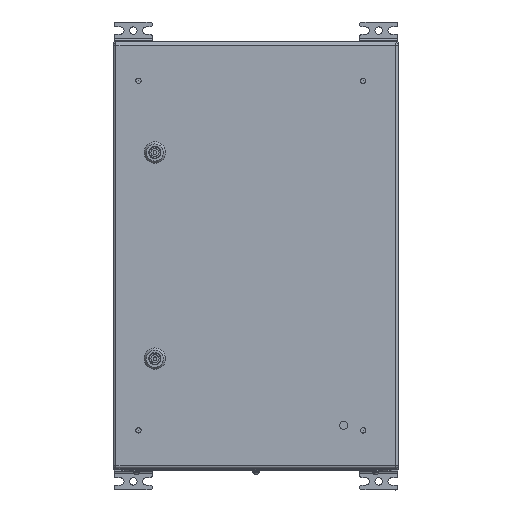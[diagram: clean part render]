
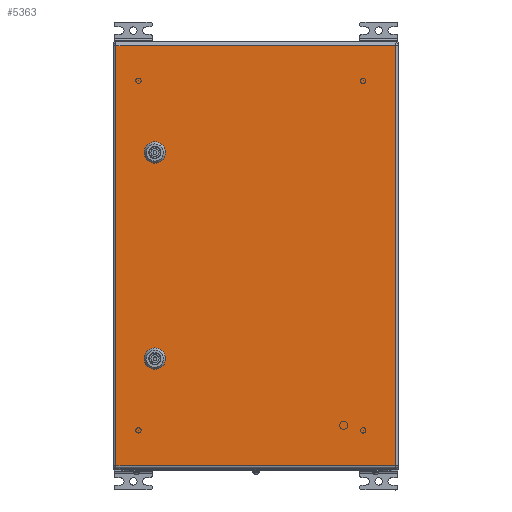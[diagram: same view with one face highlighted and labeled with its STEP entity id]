
A CAD part, top view. The second image highlights one B-rep face of the part: STEP entity #5363.
In plain terms, the highlighted planar face has unit normal (0, 0, 1).
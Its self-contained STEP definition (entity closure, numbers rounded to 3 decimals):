
#5363=ADVANCED_FACE('',(#13160,#13162,#13164),#13166,.T.);
#13160=FACE_BOUND('',#13161,.T.);
#13161=EDGE_LOOP('',(#34973,#34974,#34975,#34976));
#13162=FACE_BOUND('',#13163,.T.);
#13163=EDGE_LOOP('',(#34977,#34978,#34979,#34980,#34981,#34982,#34983,#34984));
#13164=FACE_BOUND('',#13165,.T.);
#13165=EDGE_LOOP('',(#34985,#34986,#34987,#34988,#34989,#34990,#34991,#34992));
#13166=PLANE('',#13167);
#13167=AXIS2_PLACEMENT_3D('',#13168,#13169,#13170);
#13168=CARTESIAN_POINT('',(0.,0.,1.5));
#13169=DIRECTION('',(0.,0.,1.));
#13170=DIRECTION('',(1.,0.,0.));
#34973=ORIENTED_EDGE('',*,*,#38875,.T.);
#34974=ORIENTED_EDGE('',*,*,#38876,.T.);
#34975=ORIENTED_EDGE('',*,*,#38808,.T.);
#34976=ORIENTED_EDGE('',*,*,#38877,.T.);
#34977=ORIENTED_EDGE('',*,*,#38878,.T.);
#34978=ORIENTED_EDGE('',*,*,#38879,.T.);
#34979=ORIENTED_EDGE('',*,*,#38880,.T.);
#34980=ORIENTED_EDGE('',*,*,#38881,.T.);
#34981=ORIENTED_EDGE('',*,*,#38882,.T.);
#34982=ORIENTED_EDGE('',*,*,#38883,.T.);
#34983=ORIENTED_EDGE('',*,*,#38884,.T.);
#34984=ORIENTED_EDGE('',*,*,#38885,.T.);
#34985=ORIENTED_EDGE('',*,*,#38886,.T.);
#34986=ORIENTED_EDGE('',*,*,#38887,.T.);
#34987=ORIENTED_EDGE('',*,*,#38888,.T.);
#34988=ORIENTED_EDGE('',*,*,#38889,.T.);
#34989=ORIENTED_EDGE('',*,*,#38890,.T.);
#34990=ORIENTED_EDGE('',*,*,#38891,.T.);
#34991=ORIENTED_EDGE('',*,*,#38892,.T.);
#34992=ORIENTED_EDGE('',*,*,#38893,.T.);
#38808=EDGE_CURVE('',#42057,#42055,#42058,.T.);
#38875=EDGE_CURVE('',#42174,#42175,#42176,.T.);
#38876=EDGE_CURVE('',#42175,#42057,#42177,.T.);
#38877=EDGE_CURVE('',#42055,#42174,#42178,.T.);
#38878=EDGE_CURVE('',#42179,#42180,#42181,.T.);
#38879=EDGE_CURVE('',#42180,#42182,#42183,.F.);
#38880=EDGE_CURVE('',#42182,#42184,#42185,.T.);
#38881=EDGE_CURVE('',#42184,#42186,#42187,.F.);
#38882=EDGE_CURVE('',#42186,#42188,#42189,.T.);
#38883=EDGE_CURVE('',#42188,#42190,#42191,.F.);
#38884=EDGE_CURVE('',#42190,#42192,#42193,.T.);
#38885=EDGE_CURVE('',#42192,#42179,#42194,.F.);
#38886=EDGE_CURVE('',#42195,#42196,#42197,.T.);
#38887=EDGE_CURVE('',#42196,#42198,#42199,.F.);
#38888=EDGE_CURVE('',#42198,#42200,#42201,.T.);
#38889=EDGE_CURVE('',#42200,#42202,#42203,.F.);
#38890=EDGE_CURVE('',#42202,#42204,#42205,.T.);
#38891=EDGE_CURVE('',#42204,#42206,#42207,.F.);
#38892=EDGE_CURVE('',#42206,#42208,#42209,.T.);
#38893=EDGE_CURVE('',#42208,#42195,#42210,.F.);
#42055=VERTEX_POINT('',#50413);
#42057=VERTEX_POINT('',#50418);
#42058=LINE('',#50419,#50420);
#42174=VERTEX_POINT('',#50692);
#42175=VERTEX_POINT('',#50693);
#42176=LINE('',#50694,#50695);
#42177=LINE('',#50697,#50698);
#42178=LINE('',#50700,#50701);
#42179=VERTEX_POINT('',#50703);
#42180=VERTEX_POINT('',#50704);
#42181=CIRCLE('',#50705,11.25);
#42182=VERTEX_POINT('',#50709);
#42183=LINE('',#50710,#50711);
#42184=VERTEX_POINT('',#50713);
#42185=CIRCLE('',#50714,11.25);
#42186=VERTEX_POINT('',#50718);
#42187=LINE('',#50719,#50720);
#42188=VERTEX_POINT('',#50722);
#42189=CIRCLE('',#50723,11.25);
#42190=VERTEX_POINT('',#50727);
#42191=LINE('',#50728,#50729);
#42192=VERTEX_POINT('',#50731);
#42193=CIRCLE('',#50732,11.25);
#42194=LINE('',#50736,#50737);
#42195=VERTEX_POINT('',#50739);
#42196=VERTEX_POINT('',#50740);
#42197=CIRCLE('',#50741,11.25);
#42198=VERTEX_POINT('',#50745);
#42199=LINE('',#50746,#50747);
#42200=VERTEX_POINT('',#50749);
#42201=CIRCLE('',#50750,11.25);
#42202=VERTEX_POINT('',#50754);
#42203=LINE('',#50755,#50756);
#42204=VERTEX_POINT('',#50758);
#42205=CIRCLE('',#50759,11.25);
#42206=VERTEX_POINT('',#50763);
#42207=LINE('',#50764,#50765);
#42208=VERTEX_POINT('',#50767);
#42209=CIRCLE('',#50768,11.25);
#42210=LINE('',#50772,#50773);
#50413=CARTESIAN_POINT('',(0.,0.,1.5));
#50418=CARTESIAN_POINT('',(0.,-392.,1.5));
#50419=CARTESIAN_POINT('',(0.,-392.,1.5));
#50420=VECTOR('',#50421,1.);
#50421=DIRECTION('',(0.,1.,0.));
#50692=CARTESIAN_POINT('',(-589.,0.,1.5));
#50693=CARTESIAN_POINT('',(-589.,-392.,1.5));
#50694=CARTESIAN_POINT('',(-589.,0.,1.5));
#50695=VECTOR('',#50696,1.);
#50696=DIRECTION('',(0.,-1.,0.));
#50697=CARTESIAN_POINT('',(-589.,-392.,1.5));
#50698=VECTOR('',#50699,1.);
#50699=DIRECTION('',(1.,0.,0.));
#50700=CARTESIAN_POINT('',(0.,0.,1.5));
#50701=VECTOR('',#50702,1.);
#50702=DIRECTION('',(-1.,0.,0.));
#50703=CARTESIAN_POINT('',(-449.1,-49.545,1.5));
#50704=CARTESIAN_POINT('',(-443.955,-44.4,1.5));
#50705=AXIS2_PLACEMENT_3D('',#50706,#50707,#50708);
#50706=CARTESIAN_POINT('',(-439.,-54.5,1.5));
#50707=DIRECTION('',(0.,0.,-1.));
#50708=DIRECTION('',(-0.898,0.44,0.));
#50709=CARTESIAN_POINT('',(-434.045,-44.4,1.5));
#50710=CARTESIAN_POINT('',(-434.045,-44.4,1.5));
#50711=VECTOR('',#50712,1.);
#50712=DIRECTION('',(-1.,0.,0.));
#50713=CARTESIAN_POINT('',(-428.9,-49.545,1.5));
#50714=AXIS2_PLACEMENT_3D('',#50715,#50716,#50717);
#50715=CARTESIAN_POINT('',(-439.,-54.5,1.5));
#50716=DIRECTION('',(0.,0.,-1.));
#50717=DIRECTION('',(0.44,0.898,0.));
#50718=CARTESIAN_POINT('',(-428.9,-59.455,1.5));
#50719=CARTESIAN_POINT('',(-428.9,-59.455,1.5));
#50720=VECTOR('',#50721,1.);
#50721=DIRECTION('',(0.,1.,0.));
#50722=CARTESIAN_POINT('',(-434.045,-64.6,1.5));
#50723=AXIS2_PLACEMENT_3D('',#50724,#50725,#50726);
#50724=CARTESIAN_POINT('',(-439.,-54.5,1.5));
#50725=DIRECTION('',(0.,0.,-1.));
#50726=DIRECTION('',(0.898,-0.44,0.));
#50727=CARTESIAN_POINT('',(-443.955,-64.6,1.5));
#50728=CARTESIAN_POINT('',(-443.955,-64.6,1.5));
#50729=VECTOR('',#50730,1.);
#50730=DIRECTION('',(1.,0.,0.));
#50731=CARTESIAN_POINT('',(-449.1,-59.455,1.5));
#50732=AXIS2_PLACEMENT_3D('',#50733,#50734,#50735);
#50733=CARTESIAN_POINT('',(-439.,-54.5,1.5));
#50734=DIRECTION('',(0.,0.,-1.));
#50735=DIRECTION('',(-0.44,-0.898,0.));
#50736=CARTESIAN_POINT('',(-449.1,-49.545,1.5));
#50737=VECTOR('',#50738,1.);
#50738=DIRECTION('',(0.,-1.,0.));
#50739=CARTESIAN_POINT('',(-160.1,-49.545,1.5));
#50740=CARTESIAN_POINT('',(-154.955,-44.4,1.5));
#50741=AXIS2_PLACEMENT_3D('',#50742,#50743,#50744);
#50742=CARTESIAN_POINT('',(-150.,-54.5,1.5));
#50743=DIRECTION('',(0.,0.,-1.));
#50744=DIRECTION('',(-0.898,0.44,0.));
#50745=CARTESIAN_POINT('',(-145.045,-44.4,1.5));
#50746=CARTESIAN_POINT('',(-145.045,-44.4,1.5));
#50747=VECTOR('',#50748,1.);
#50748=DIRECTION('',(-1.,0.,0.));
#50749=CARTESIAN_POINT('',(-139.9,-49.545,1.5));
#50750=AXIS2_PLACEMENT_3D('',#50751,#50752,#50753);
#50751=CARTESIAN_POINT('',(-150.,-54.5,1.5));
#50752=DIRECTION('',(0.,0.,-1.));
#50753=DIRECTION('',(0.44,0.898,0.));
#50754=CARTESIAN_POINT('',(-139.9,-59.455,1.5));
#50755=CARTESIAN_POINT('',(-139.9,-59.455,1.5));
#50756=VECTOR('',#50757,1.);
#50757=DIRECTION('',(0.,1.,0.));
#50758=CARTESIAN_POINT('',(-145.045,-64.6,1.5));
#50759=AXIS2_PLACEMENT_3D('',#50760,#50761,#50762);
#50760=CARTESIAN_POINT('',(-150.,-54.5,1.5));
#50761=DIRECTION('',(0.,0.,-1.));
#50762=DIRECTION('',(0.898,-0.44,0.));
#50763=CARTESIAN_POINT('',(-154.955,-64.6,1.5));
#50764=CARTESIAN_POINT('',(-154.955,-64.6,1.5));
#50765=VECTOR('',#50766,1.);
#50766=DIRECTION('',(1.,0.,0.));
#50767=CARTESIAN_POINT('',(-160.1,-59.455,1.5));
#50768=AXIS2_PLACEMENT_3D('',#50769,#50770,#50771);
#50769=CARTESIAN_POINT('',(-150.,-54.5,1.5));
#50770=DIRECTION('',(0.,0.,-1.));
#50771=DIRECTION('',(-0.44,-0.898,0.));
#50772=CARTESIAN_POINT('',(-160.1,-49.545,1.5));
#50773=VECTOR('',#50774,1.);
#50774=DIRECTION('',(0.,-1.,0.));
